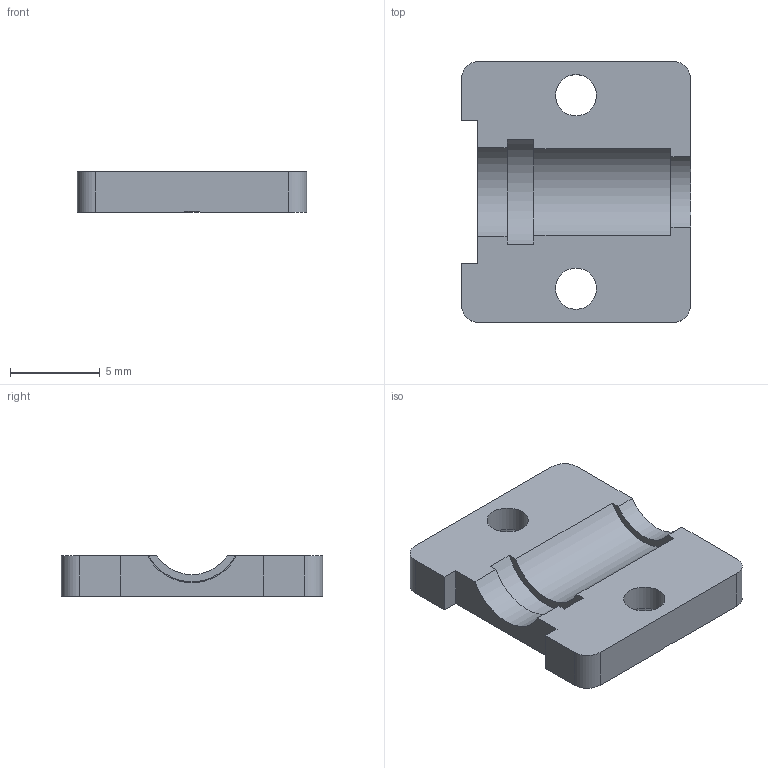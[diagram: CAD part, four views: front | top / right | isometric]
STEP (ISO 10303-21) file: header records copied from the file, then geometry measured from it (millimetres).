
FILE_DESCRIPTION(('Open CASCADE Model'),'2;1');
FILE_NAME('C27_R2_LED_Horizontal_Removable_Keeper','2026-09-09T17:52:57' ,('Author'),('Open CASCADE'),'Open CASCADE STEP processor 7.9', 'build123d','Unknown');
FILE_SCHEMA(('AUTOMOTIVE_DESIGN { 1 0 10303 214 1 1 1 1 }'));
Length unit declared in the file: millimetre
Products named in the file (1): C27_R2_LED_Horizontal_Removable_Keeper
Bounding box: 12.8 x 14.6 x 2.25 mm (x, y, z)
Volume: 315.6 mm3; surface area: 504.6 mm2
Topology: 1 solids, 1 shells, 26 faces, 76 edges, 50 vertices
Faces by surface type: plane 14, cylinder 10, cone 2
Full cylindrical faces by diameter (mm): 2.3 x2
Entity records: 1839 total; most frequent: CARTESIAN_POINT 373, DIRECTION 257, ORIENTED_EDGE 152, PCURVE 152, DEFINITIONAL_REPRESENTATION 152, LINE 130, VECTOR 130, EDGE_CURVE 76
